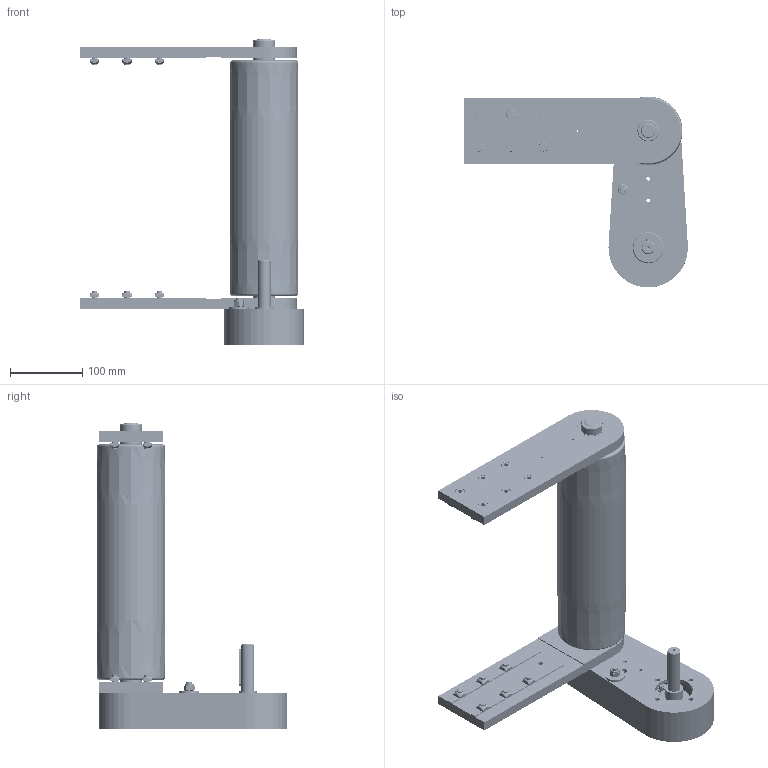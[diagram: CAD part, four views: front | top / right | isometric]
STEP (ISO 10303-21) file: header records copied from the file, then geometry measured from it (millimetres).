
FILE_DESCRIPTION (( 'STEP AP203' ), '1' );
FILE_NAME ('084.095.KTC.44.300.step', '2013-02-28T12:01:51', ( '' ), ( '' ), 'SwSTEP 2.0', 'SolidWorks 2011', '' );
FILE_SCHEMA (( 'CONFIG_CONTROL_DESIGN' ));
Length unit declared in the file: millimetre
Products named in the file (24): 084.095.KTC.44.300; 084.813.004; 084.302.000 DADI ALUSIC 13x13_084.302.004; 084.301.000 VITI ALUSIC_084.301.003; 084.809.003; 084.810.005; Torque nut 01_ALUSIC_ISO 7040-M8-S; Plain Washer XLarge Grade C_ALUSIC_Washer ISO 7094 - 8; Circlip for Shafts normal_din_Circlip DIN 471 - 8 x 0.8; CUSCINETTI A SFERE_608-2RS; 084.810.004; 084.810.007; CHIAVETTE_A 6x6x50 UNI 6604-69; 084.803.012; 084.803.014; 084.809.001; 084.808.002_084.808.002; 084.808.003_084.808.003; 084.802.019_084.802.019; 084.802.034_084.802.034; 084.810.003; 084.813.002; 084.812.003; 084.816.102_084.816.107<A macchina>
Assembly tree (48 placements, depth 3):
  084.095.KTC.44.300
    084.810.003  x2
    084.816.102_084.816.107<A macchina>
    084.302.000 DADI ALUSIC 13x13_084.302.004  x12
    084.808.003_084.808.003
    084.802.019_084.802.019
    084.813.002
    084.301.000 VITI ALUSIC_084.301.003  x12
    084.813.004
    084.803.014  x2
    084.809.001
    084.808.002_084.808.002
    084.802.034_084.802.034
    084.810.005
      CUSCINETTI A SFERE_608-2RS  x2
      084.810.004
      084.810.007
      Plain Washer XLarge Grade C_ALUSIC_Washer ISO 7094 - 8
      Torque nut 01_ALUSIC_ISO 7040-M8-S
      Circlip for Shafts normal_din_Circlip DIN 471 - 8 x 0.8
    084.812.003
    084.803.012
    084.809.003
    CHIAVETTE_A 6x6x50 UNI 6604-69
Bounding box: 310 x 264 x 423.5 mm (x, y, z)
Volume: 1830606.5 mm3; surface area: 795866.4 mm2
Topology: 77 solids, 78 shells, 3125 faces, 7340 edges, 4688 vertices
Faces by surface type: cylinder 1491, plane 850, bspline 468, cone 197, torus 110, sphere 9
Entity records: 84061 total; most frequent: CARTESIAN_POINT 18902, DIRECTION 14115, ORIENTED_EDGE 12230, EDGE_CURVE 6115, AXIS2_PLACEMENT_3D 5946, VERTEX_POINT 3893, CIRCLE 3737, EDGE_LOOP 3198
